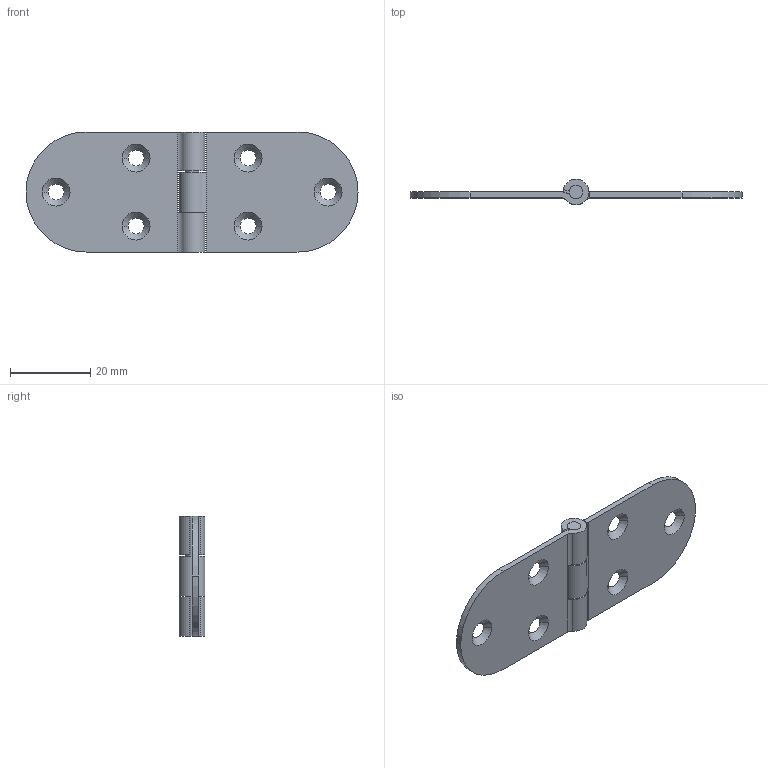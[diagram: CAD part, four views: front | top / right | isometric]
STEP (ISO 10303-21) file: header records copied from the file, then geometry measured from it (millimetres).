
FILE_DESCRIPTION((''),'2;1');
FILE_NAME('6046.01.stp','2015-07-17T16:04:46',(''),(''),'Mechanical Desktop 2006','Mechanical Desktop 2006',', , ');
FILE_SCHEMA(('CONFIG_CONTROL_DESIGN'));
Length unit declared in the file: millimetre
Products named in the file (1): 6046.01
Bounding box: 83 x 6.4 x 30 mm (x, y, z)
Volume: 3857.6 mm3; surface area: 5646 mm2
Topology: 2 solids, 2 shells, 52 faces, 144 edges, 96 vertices
Faces by surface type: cylinder 20, plane 20, cone 12
Entity records: 1821 total; most frequent: DIRECTION 326, CARTESIAN_POINT 293, ORIENTED_EDGE 288, EDGE_CURVE 144, AXIS2_PLACEMENT_3D 129, VERTEX_POINT 96, CIRCLE 76, VECTOR 68
